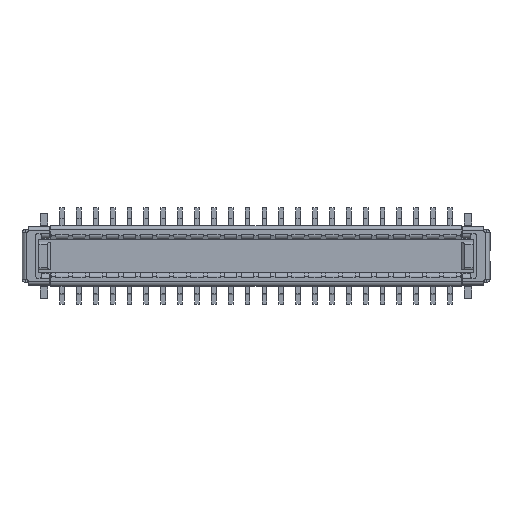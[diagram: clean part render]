
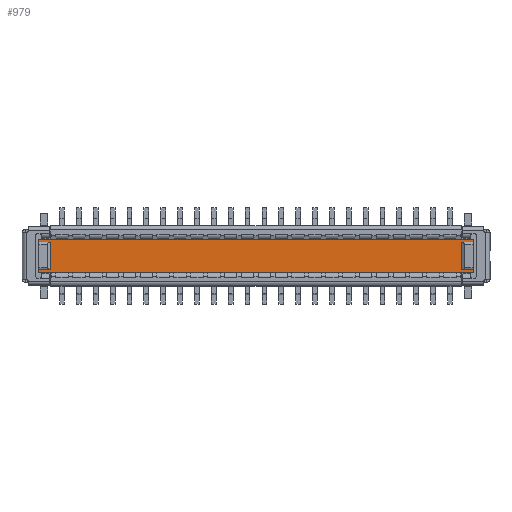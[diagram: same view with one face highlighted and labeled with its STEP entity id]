
A CAD part, top view. The second image highlights one B-rep face of the part: STEP entity #979.
In plain terms, the highlighted planar face has unit normal (0, 0, 1).
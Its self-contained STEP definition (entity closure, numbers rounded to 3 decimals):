
#979=ADVANCED_FACE('',(#3455),#2257,.F.);
#2257=PLANE('',#26839);
#3455=FACE_OUTER_BOUND('',#4793,.T.);
#4793=EDGE_LOOP('',(#8436,#8437,#8438,#8439,#8440,#8441,#8442,#8443,#8444,
#8445,#8446,#8447));
#8436=ORIENTED_EDGE('',*,*,#17981,.T.);
#8437=ORIENTED_EDGE('',*,*,#17416,.F.);
#8438=ORIENTED_EDGE('',*,*,#17982,.T.);
#8439=ORIENTED_EDGE('',*,*,#17983,.T.);
#8440=ORIENTED_EDGE('',*,*,#17984,.T.);
#8441=ORIENTED_EDGE('',*,*,#17985,.F.);
#8442=ORIENTED_EDGE('',*,*,#17986,.T.);
#8443=ORIENTED_EDGE('',*,*,#17437,.F.);
#8444=ORIENTED_EDGE('',*,*,#17987,.T.);
#8445=ORIENTED_EDGE('',*,*,#17988,.F.);
#8446=ORIENTED_EDGE('',*,*,#17989,.F.);
#8447=ORIENTED_EDGE('',*,*,#17990,.T.);
#14728=VERTEX_POINT('',#38212);
#14729=VERTEX_POINT('',#38214);
#14746=VERTEX_POINT('',#38252);
#14747=VERTEX_POINT('',#38254);
#15056=VERTEX_POINT('',#39139);
#15057=VERTEX_POINT('',#39141);
#15058=VERTEX_POINT('',#39143);
#15059=VERTEX_POINT('',#39145);
#15060=VERTEX_POINT('',#39147);
#15061=VERTEX_POINT('',#39150);
#15062=VERTEX_POINT('',#39152);
#15063=VERTEX_POINT('',#39154);
#17416=EDGE_CURVE('',#14728,#14729,#21066,.T.);
#17437=EDGE_CURVE('',#14746,#14747,#21087,.T.);
#17981=EDGE_CURVE('',#15056,#14729,#21614,.T.);
#17982=EDGE_CURVE('',#14728,#15057,#21615,.T.);
#17983=EDGE_CURVE('',#15057,#15058,#21616,.T.);
#17984=EDGE_CURVE('',#15058,#15059,#21617,.T.);
#17985=EDGE_CURVE('',#15060,#15059,#21618,.T.);
#17986=EDGE_CURVE('',#15060,#14747,#21619,.T.);
#17987=EDGE_CURVE('',#14746,#15061,#21620,.T.);
#17988=EDGE_CURVE('',#15062,#15061,#21621,.T.);
#17989=EDGE_CURVE('',#15063,#15062,#21622,.T.);
#17990=EDGE_CURVE('',#15063,#15056,#21623,.T.);
#21066=LINE('',#38213,#24434);
#21087=LINE('',#38253,#24455);
#21614=LINE('',#39138,#24982);
#21615=LINE('',#39140,#24983);
#21616=LINE('',#39142,#24984);
#21617=LINE('',#39144,#24985);
#21618=LINE('',#39146,#24986);
#21619=LINE('',#39148,#24987);
#21620=LINE('',#39149,#24988);
#21621=LINE('',#39151,#24989);
#21622=LINE('',#39153,#24990);
#21623=LINE('',#39155,#24991);
#24434=VECTOR('',#30419,1.);
#24455=VECTOR('',#30442,1.);
#24982=VECTOR('',#31067,1.);
#24983=VECTOR('',#31068,1.);
#24984=VECTOR('',#31069,1.);
#24985=VECTOR('',#31070,1.);
#24986=VECTOR('',#31071,1.);
#24987=VECTOR('',#31072,1.);
#24988=VECTOR('',#31073,1.);
#24989=VECTOR('',#31074,1.);
#24990=VECTOR('',#31075,1.);
#24991=VECTOR('',#31076,1.);
#26839=AXIS2_PLACEMENT_3D('',#39156,#31077,#31078);
#30419=DIRECTION('',(1.,0.,0.));
#30442=DIRECTION('',(-1.,0.,0.));
#31067=DIRECTION('',(0.,1.,0.));
#31068=DIRECTION('',(0.,-1.,0.));
#31069=DIRECTION('',(1.,0.,0.));
#31070=DIRECTION('',(0.,-1.,0.));
#31071=DIRECTION('',(1.,0.,0.));
#31072=DIRECTION('',(0.,-1.,0.));
#31073=DIRECTION('',(0.,1.,0.));
#31074=DIRECTION('',(1.,0.,0.));
#31075=DIRECTION('',(0.,-1.,0.));
#31076=DIRECTION('',(1.,0.,0.));
#31077=DIRECTION('',(0.,0.,-1.));
#31078=DIRECTION('',(-1.,0.,0.));
#38212=CARTESIAN_POINT('',(-4.505,0.35,0.1));
#38213=CARTESIAN_POINT('',(-4.505,0.35,0.1));
#38214=CARTESIAN_POINT('',(4.505,0.35,0.1));
#38252=CARTESIAN_POINT('',(4.505,-0.35,0.1));
#38253=CARTESIAN_POINT('',(4.505,-0.35,0.1));
#38254=CARTESIAN_POINT('',(-4.505,-0.35,0.1));
#39138=CARTESIAN_POINT('',(4.505,0.35,0.1));
#39139=CARTESIAN_POINT('',(4.505,0.29,0.1));
#39140=CARTESIAN_POINT('',(-4.505,-0.35,0.1));
#39141=CARTESIAN_POINT('',(-4.505,0.29,0.1));
#39142=CARTESIAN_POINT('',(-4.505,0.29,0.1));
#39143=CARTESIAN_POINT('',(-4.265,0.29,0.1));
#39144=CARTESIAN_POINT('',(-4.265,0.29,0.1));
#39145=CARTESIAN_POINT('',(-4.265,-0.29,0.1));
#39146=CARTESIAN_POINT('',(-4.505,-0.29,0.1));
#39147=CARTESIAN_POINT('',(-4.505,-0.29,0.1));
#39148=CARTESIAN_POINT('',(-4.505,-0.35,0.1));
#39149=CARTESIAN_POINT('',(4.505,0.35,0.1));
#39150=CARTESIAN_POINT('',(4.505,-0.29,0.1));
#39151=CARTESIAN_POINT('',(4.265,-0.29,0.1));
#39152=CARTESIAN_POINT('',(4.265,-0.29,0.1));
#39153=CARTESIAN_POINT('',(4.265,0.29,0.1));
#39154=CARTESIAN_POINT('',(4.265,0.29,0.1));
#39155=CARTESIAN_POINT('',(4.265,0.29,0.1));
#39156=CARTESIAN_POINT('',(0.,0.,0.1));
